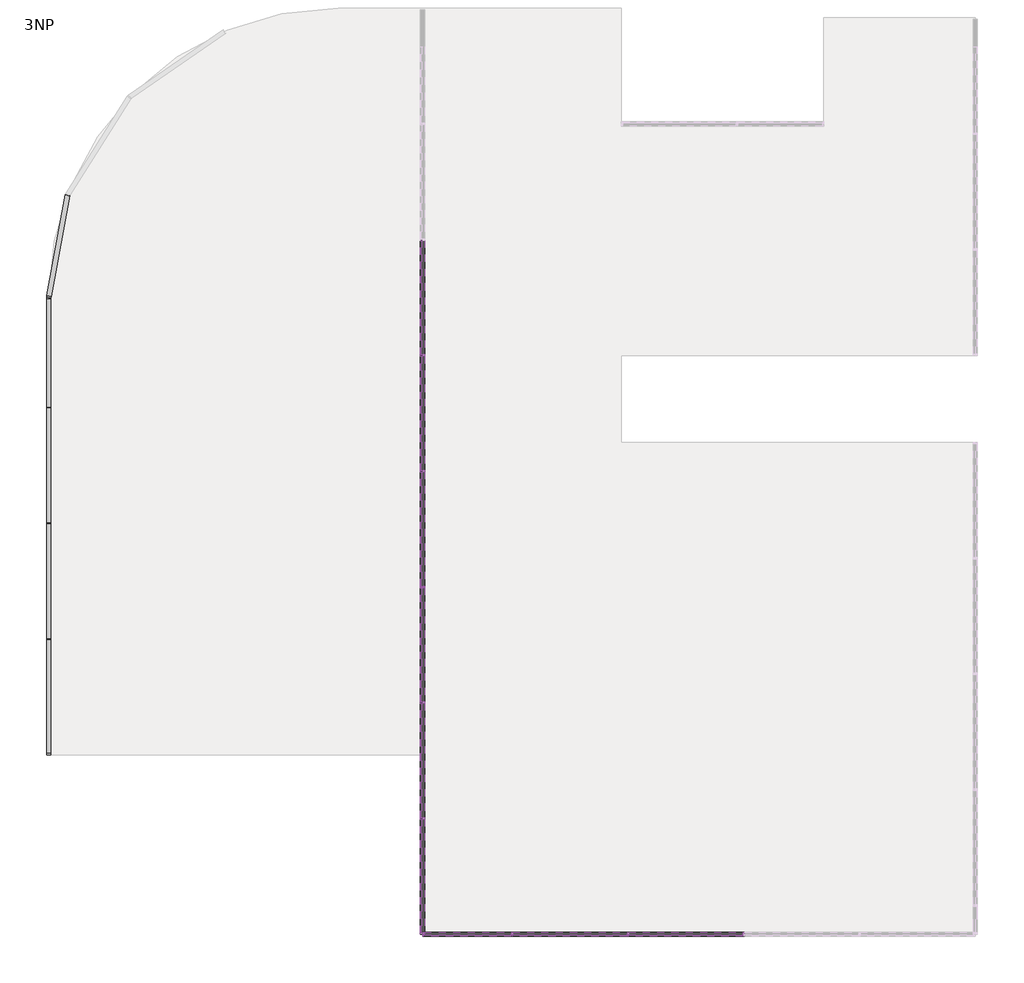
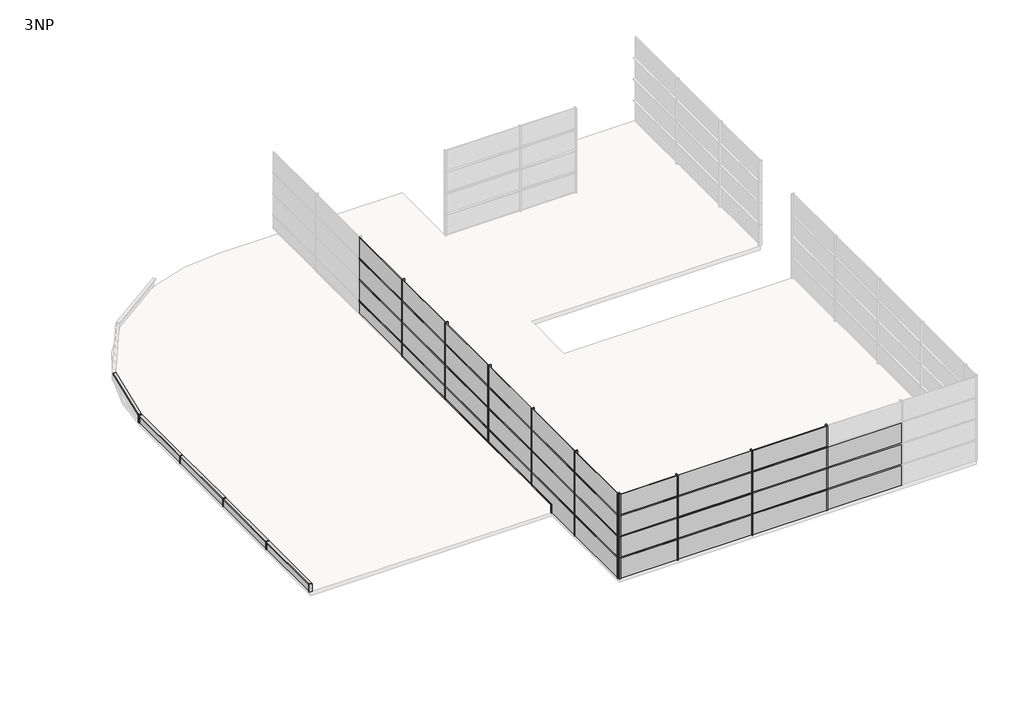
# One storey, part 1 of 4: 83 members, 43 plates.
"""IFC4 building model written with IfcOpenShell, lengths in millimetres."""

from ifc_helpers import new_model, si_unit, origin, place, context, project, spatial, transform, mapped, element, save
from components import rectangular_mullion_50_x_150mm_d99dc9be, rectangular_mullion_50_x_150mm_182bfbd5, rectangular_mullion_50_x_150mm_6588f46c, rectangular_mullion_50_x_150mm_a037c29c, rectangular_mullion_50_x_150mm_c2546fd4, rectangular_mullion_50_x_150mm_402ab136, rectangular_mullion_50_x_150mm_cd873b1a, rectangular_mullion_50_x_150mm_823f78f2, rectangular_mullion_50_x_150mm_af4f190b, rectangular_mullion_50_x_150mm_393abe4d, rectangular_mullion_50_x_150mm_6c212b22, rectangular_mullion_50_x_150mm_f682c31f, rectangular_mullion_50_x_150mm_a5a25251, rectangular_mullion_50_x_150mm_3d11f3b6, system_panel_glazed_8e9402eb, system_panel_glazed_89ac83a7, system_panel_glazed_2dc425e2, system_panel_glazed_457055d6, system_panel_glazed_6f3688e4, system_panel_glazed_d9b165dc, system_panel_glazed_d4f08671, system_panel_glazed_2e57b5d9

model = new_model("IFC4")

# Units and contexts
model_context = context("Model", 3, world=origin())
ifc_project = project(units=[si_unit("LENGTHUNIT", "METRE", prefix="MILLI")], contexts=[model_context])

# Site, building, storey
site = spatial("IfcSite", under=ifc_project)
building = spatial("IfcBuilding", under=site)
storey = spatial("IfcBuildingStorey", under=building, Name="3NP", Elevation=12000.0)

# Members
placement = place(None, origin())
rectangular_mullion_50_x_150mm_shape = rectangular_mullion_50_x_150mm_d99dc9be(model_context)
element("IfcMember", 1, ObjectType="Rectangular Mullion : 50 x 150mm", at=placement, inside=storey, context=model_context, shape_type="MappedRepresentation", body=[
    mapped(rectangular_mullion_50_x_150mm_shape, transform((5503.2660975, -23624.0160434, 13200.0), x_axis=(-1.0, 0.0, 0.0), y_axis=(0.0, -1.0, 0.0), z_axis=(0.0, 0.0, 1.0))),
])
element("IfcMember", 2, ObjectType="Rectangular Mullion : 50 x 150mm", at=placement, inside=storey, context=model_context, shape_type="MappedRepresentation", body=[
    mapped(rectangular_mullion_50_x_150mm_shape, transform((5503.2660975, -23624.0160434, 14400.0), x_axis=(-1.0, 0.0, 0.0), y_axis=(0.0, -1.0, 0.0), z_axis=(0.0, 0.0, 1.0))),
])
element("IfcMember", 3, ObjectType="Rectangular Mullion : 50 x 150mm", at=placement, inside=storey, context=model_context, shape_type="MappedRepresentation", body=[
    mapped(rectangular_mullion_50_x_150mm_shape, transform((5503.2660975, -23624.0160434, 15600.0), x_axis=(-1.0, 0.0, 0.0), y_axis=(0.0, -1.0, 0.0), z_axis=(0.0, 0.0, 1.0))),
])
element("IfcMember", 4, ObjectType="Rectangular Mullion : 50 x 150mm", at=placement, inside=storey, context=model_context, shape_type="MappedRepresentation", body=[
    mapped(rectangular_mullion_50_x_150mm_shape, transform((5503.2660975, -23624.0160434, 16800.0), x_axis=(-1.0, 0.0, 0.0), y_axis=(0.0, -1.0, 0.0), z_axis=(0.0, 0.0, 1.0))),
])
element("IfcMember", 5, ObjectType="Rectangular Mullion : 50 x 150mm", at=placement, inside=storey, context=model_context, shape_type="MappedRepresentation", body=[
    mapped(rectangular_mullion_50_x_150mm_shape, transform((1503.2660975, -23624.0160434, 13200.0), x_axis=(-1.0, 0.0, 0.0), y_axis=(0.0, -1.0, 0.0), z_axis=(0.0, 0.0, 1.0))),
])
element("IfcMember", 6, ObjectType="Rectangular Mullion : 50 x 150mm", at=placement, inside=storey, context=model_context, shape_type="MappedRepresentation", body=[
    mapped(rectangular_mullion_50_x_150mm_shape, transform((1503.2660975, -23624.0160434, 14400.0), x_axis=(-1.0, 0.0, 0.0), y_axis=(0.0, -1.0, 0.0), z_axis=(0.0, 0.0, 1.0))),
])
element("IfcMember", 7, ObjectType="Rectangular Mullion : 50 x 150mm", at=placement, inside=storey, context=model_context, shape_type="MappedRepresentation", body=[
    mapped(rectangular_mullion_50_x_150mm_shape, transform((1503.2660975, -23624.0160434, 15600.0), x_axis=(-1.0, 0.0, 0.0), y_axis=(0.0, -1.0, 0.0), z_axis=(0.0, 0.0, 1.0))),
])
element("IfcMember", 8, ObjectType="Rectangular Mullion : 50 x 150mm", at=placement, inside=storey, context=model_context, shape_type="MappedRepresentation", body=[
    mapped(rectangular_mullion_50_x_150mm_shape, transform((1503.2660975, -23624.0160434, 16800.0), x_axis=(-1.0, 0.0, 0.0), y_axis=(0.0, -1.0, 0.0), z_axis=(0.0, 0.0, 1.0))),
])
element("IfcMember", 9, ObjectType="Rectangular Mullion : 50 x 150mm", at=placement, inside=storey, context=model_context, shape_type="MappedRepresentation", body=[
    mapped(rectangular_mullion_50_x_150mm_shape, transform((-2496.7339025, -23624.0160434, 13200.0), x_axis=(-1.0, 0.0, 0.0), y_axis=(0.0, -1.0, 0.0), z_axis=(0.0, 0.0, 1.0))),
])
element("IfcMember", 10, ObjectType="Rectangular Mullion : 50 x 150mm", at=placement, inside=storey, context=model_context, shape_type="MappedRepresentation", body=[
    mapped(rectangular_mullion_50_x_150mm_shape, transform((-2496.7339025, -23624.0160434, 14400.0), x_axis=(-1.0, 0.0, 0.0), y_axis=(0.0, -1.0, 0.0), z_axis=(0.0, 0.0, 1.0))),
])
element("IfcMember", 11, ObjectType="Rectangular Mullion : 50 x 150mm", at=placement, inside=storey, context=model_context, shape_type="MappedRepresentation", body=[
    mapped(rectangular_mullion_50_x_150mm_shape, transform((-2496.7339025, -23624.0160434, 15600.0), x_axis=(-1.0, 0.0, 0.0), y_axis=(0.0, -1.0, 0.0), z_axis=(0.0, 0.0, 1.0))),
])
element("IfcMember", 12, ObjectType="Rectangular Mullion : 50 x 150mm", at=placement, inside=storey, context=model_context, shape_type="MappedRepresentation", body=[
    mapped(rectangular_mullion_50_x_150mm_shape, transform((-2496.7339025, -23624.0160434, 16800.0), x_axis=(-1.0, 0.0, 0.0), y_axis=(0.0, -1.0, 0.0), z_axis=(0.0, 0.0, 1.0))),
])
element("IfcMember", 13, ObjectType="Rectangular Mullion : 50 x 150mm", at=placement, inside=storey, context=model_context, shape_type="MappedRepresentation", body=[
    mapped(rectangular_mullion_50_x_150mm_shape, transform((-5587.173406, -19624.0160434, 13200.0), x_axis=(0.0, 1.0, 0.0), y_axis=(-1.0, 0.0, 0.0), z_axis=(0.0, 0.0, 1.0))),
])
element("IfcMember", 14, ObjectType="Rectangular Mullion : 50 x 150mm", at=placement, inside=storey, context=model_context, shape_type="MappedRepresentation", body=[
    mapped(rectangular_mullion_50_x_150mm_shape, transform((-5587.173406, -19624.0160434, 14400.0), x_axis=(0.0, 1.0, 0.0), y_axis=(-1.0, 0.0, 0.0), z_axis=(0.0, 0.0, 1.0))),
])
element("IfcMember", 15, ObjectType="Rectangular Mullion : 50 x 150mm", at=placement, inside=storey, context=model_context, shape_type="MappedRepresentation", body=[
    mapped(rectangular_mullion_50_x_150mm_shape, transform((-5587.173406, -19624.0160434, 15600.0), x_axis=(0.0, 1.0, 0.0), y_axis=(-1.0, 0.0, 0.0), z_axis=(0.0, 0.0, 1.0))),
])
element("IfcMember", 16, ObjectType="Rectangular Mullion : 50 x 150mm", at=placement, inside=storey, context=model_context, shape_type="MappedRepresentation", body=[
    mapped(rectangular_mullion_50_x_150mm_shape, transform((-5587.173406, -19624.0160434, 16800.0), x_axis=(0.0, 1.0, 0.0), y_axis=(-1.0, 0.0, 0.0), z_axis=(0.0, 0.0, 1.0))),
])
element("IfcMember", 17, ObjectType="Rectangular Mullion : 50 x 150mm", at=placement, inside=storey, context=model_context, shape_type="MappedRepresentation", body=[
    mapped(rectangular_mullion_50_x_150mm_shape, transform((-5587.173406, -15624.0160434, 14400.0), x_axis=(0.0, 1.0, 0.0), y_axis=(-1.0, 0.0, 0.0), z_axis=(0.0, 0.0, 1.0))),
])
element("IfcMember", 18, ObjectType="Rectangular Mullion : 50 x 150mm", at=placement, inside=storey, context=model_context, shape_type="MappedRepresentation", body=[
    mapped(rectangular_mullion_50_x_150mm_shape, transform((-5587.173406, -15624.0160434, 15600.0), x_axis=(0.0, 1.0, 0.0), y_axis=(-1.0, 0.0, 0.0), z_axis=(0.0, 0.0, 1.0))),
])
element("IfcMember", 19, ObjectType="Rectangular Mullion : 50 x 150mm", at=placement, inside=storey, context=model_context, shape_type="MappedRepresentation", body=[
    mapped(rectangular_mullion_50_x_150mm_shape, transform((-5587.173406, -15624.0160434, 16800.0), x_axis=(0.0, 1.0, 0.0), y_axis=(-1.0, 0.0, 0.0), z_axis=(0.0, 0.0, 1.0))),
])
element("IfcMember", 20, ObjectType="Rectangular Mullion : 50 x 150mm", at=placement, inside=storey, context=model_context, shape_type="MappedRepresentation", body=[
    mapped(rectangular_mullion_50_x_150mm_shape, transform((-5587.173406, -11624.0160434, 14400.0), x_axis=(0.0, 1.0, 0.0), y_axis=(-1.0, 0.0, 0.0), z_axis=(0.0, 0.0, 1.0))),
])
element("IfcMember", 21, ObjectType="Rectangular Mullion : 50 x 150mm", at=placement, inside=storey, context=model_context, shape_type="MappedRepresentation", body=[
    mapped(rectangular_mullion_50_x_150mm_shape, transform((-5587.173406, -11624.0160434, 15600.0), x_axis=(0.0, 1.0, 0.0), y_axis=(-1.0, 0.0, 0.0), z_axis=(0.0, 0.0, 1.0))),
])
element("IfcMember", 22, ObjectType="Rectangular Mullion : 50 x 150mm", at=placement, inside=storey, context=model_context, shape_type="MappedRepresentation", body=[
    mapped(rectangular_mullion_50_x_150mm_shape, transform((-5587.173406, -11624.0160434, 16800.0), x_axis=(0.0, 1.0, 0.0), y_axis=(-1.0, 0.0, 0.0), z_axis=(0.0, 0.0, 1.0))),
])
element("IfcMember", 23, ObjectType="Rectangular Mullion : 50 x 150mm", at=placement, inside=storey, context=model_context, shape_type="MappedRepresentation", body=[
    mapped(rectangular_mullion_50_x_150mm_shape, transform((-5587.173406, -7624.0160434, 14400.0), x_axis=(0.0, 1.0, 0.0), y_axis=(-1.0, 0.0, 0.0), z_axis=(0.0, 0.0, 1.0))),
])
element("IfcMember", 24, ObjectType="Rectangular Mullion : 50 x 150mm", at=placement, inside=storey, context=model_context, shape_type="MappedRepresentation", body=[
    mapped(rectangular_mullion_50_x_150mm_shape, transform((-5587.173406, -7624.0160434, 15600.0), x_axis=(0.0, 1.0, 0.0), y_axis=(-1.0, 0.0, 0.0), z_axis=(0.0, 0.0, 1.0))),
])
element("IfcMember", 25, ObjectType="Rectangular Mullion : 50 x 150mm", at=placement, inside=storey, context=model_context, shape_type="MappedRepresentation", body=[
    mapped(rectangular_mullion_50_x_150mm_shape, transform((-5587.173406, -7624.0160434, 16800.0), x_axis=(0.0, 1.0, 0.0), y_axis=(-1.0, 0.0, 0.0), z_axis=(0.0, 0.0, 1.0))),
])
element("IfcMember", 26, ObjectType="Rectangular Mullion : 50 x 150mm", at=placement, inside=storey, context=model_context, shape_type="MappedRepresentation", body=[
    mapped(rectangular_mullion_50_x_150mm_shape, transform((-5587.173406, -3624.0160434, 14400.0), x_axis=(0.0, 1.0, 0.0), y_axis=(-1.0, 0.0, 0.0), z_axis=(0.0, 0.0, 1.0))),
])
element("IfcMember", 27, ObjectType="Rectangular Mullion : 50 x 150mm", at=placement, inside=storey, context=model_context, shape_type="MappedRepresentation", body=[
    mapped(rectangular_mullion_50_x_150mm_shape, transform((-5587.173406, -3624.0160434, 15600.0), x_axis=(0.0, 1.0, 0.0), y_axis=(-1.0, 0.0, 0.0), z_axis=(0.0, 0.0, 1.0))),
])
element("IfcMember", 28, ObjectType="Rectangular Mullion : 50 x 150mm", at=placement, inside=storey, context=model_context, shape_type="MappedRepresentation", body=[
    mapped(rectangular_mullion_50_x_150mm_shape, transform((-5587.173406, -3624.0160434, 16800.0), x_axis=(0.0, 1.0, 0.0), y_axis=(-1.0, 0.0, 0.0), z_axis=(0.0, 0.0, 1.0))),
])
rectangular_mullion_50_x_150mm_2_shape = rectangular_mullion_50_x_150mm_182bfbd5(model_context)
element("IfcMember", 29, ObjectType="Rectangular Mullion : 50 x 150mm", at=placement, inside=storey, context=model_context, shape_type="MappedRepresentation", body=[
    mapped(rectangular_mullion_50_x_150mm_2_shape, transform((-5587.173406, -11649.0160434, 12448.4924443), x_axis=(0.0, 0.0, -1.0), y_axis=(-1.0, 0.0, 0.0), z_axis=(0.0, 1.0, 0.0))),
])
element("IfcMember", 30, ObjectType="Rectangular Mullion : 50 x 150mm", at=placement, inside=storey, context=model_context, shape_type="MappedRepresentation", body=[
    mapped(rectangular_mullion_50_x_150mm_2_shape, transform((-5587.173406, -7649.0160434, 12448.4924443), x_axis=(0.0, 0.0, -1.0), y_axis=(-1.0, 0.0, 0.0), z_axis=(0.0, 1.0, 0.0))),
])
element("IfcMember", 31, ObjectType="Rectangular Mullion : 50 x 150mm", at=placement, inside=storey, context=model_context, shape_type="MappedRepresentation", body=[
    mapped(rectangular_mullion_50_x_150mm_2_shape, transform((-5587.173406, -3649.0160434, 12448.4924443), x_axis=(0.0, 0.0, -1.0), y_axis=(-1.0, 0.0, 0.0), z_axis=(0.0, 1.0, 0.0))),
])
rectangular_mullion_50_x_150mm_3_shape = rectangular_mullion_50_x_150mm_6588f46c(model_context)
element("IfcMember", 32, ObjectType="Rectangular Mullion : 50 x 150mm", at=placement, inside=storey, context=model_context, shape_type="MappedRepresentation", body=[
    mapped(rectangular_mullion_50_x_150mm_3_shape, transform((-5587.173406, -23624.0160434, 13200.0), x_axis=(-1.0, 0.0, 0.0), y_axis=(0.0, -1.0, 0.0), z_axis=(0.0, 0.0, 1.0))),
])
element("IfcMember", 33, ObjectType="Rectangular Mullion : 50 x 150mm", at=placement, inside=storey, context=model_context, shape_type="MappedRepresentation", body=[
    mapped(rectangular_mullion_50_x_150mm_3_shape, transform((-5587.173406, -23624.0160434, 14400.0), x_axis=(-1.0, 0.0, 0.0), y_axis=(0.0, -1.0, 0.0), z_axis=(0.0, 0.0, 1.0))),
])
element("IfcMember", 34, ObjectType="Rectangular Mullion : 50 x 150mm", at=placement, inside=storey, context=model_context, shape_type="MappedRepresentation", body=[
    mapped(rectangular_mullion_50_x_150mm_3_shape, transform((-5587.173406, -23624.0160434, 15600.0), x_axis=(-1.0, 0.0, 0.0), y_axis=(0.0, -1.0, 0.0), z_axis=(0.0, 0.0, 1.0))),
])
element("IfcMember", 35, ObjectType="Rectangular Mullion : 50 x 150mm", at=placement, inside=storey, context=model_context, shape_type="MappedRepresentation", body=[
    mapped(rectangular_mullion_50_x_150mm_3_shape, transform((-5587.173406, -23624.0160434, 16800.0), x_axis=(-1.0, 0.0, 0.0), y_axis=(0.0, -1.0, 0.0), z_axis=(0.0, 0.0, 1.0))),
])
element("IfcMember", 36, ObjectType="Rectangular Mullion : 50 x 150mm", at=placement, inside=storey, context=model_context, shape_type="MappedRepresentation", body=[
    mapped(rectangular_mullion_50_x_150mm_2_shape, transform((-18496.7339025, -9398.5291324, 12448.4924443), x_axis=(0.0, 0.0, 1.0), y_axis=(-1.0, 0.0, 0.0), z_axis=(0.0, -1.0, 0.0))),
])
element("IfcMember", 37, ObjectType="Rectangular Mullion : 50 x 150mm", at=placement, inside=storey, context=model_context, shape_type="MappedRepresentation", body=[
    mapped(rectangular_mullion_50_x_150mm_2_shape, transform((-18496.7339025, -13398.5291324, 12448.4924443), x_axis=(0.0, 0.0, 1.0), y_axis=(-1.0, 0.0, 0.0), z_axis=(0.0, -1.0, 0.0))),
])
rectangular_mullion_50_x_150mm_4_shape = rectangular_mullion_50_x_150mm_a037c29c(model_context)
element("IfcMember", 38, ObjectType="Rectangular Mullion : 50 x 150mm", at=placement, inside=storey, context=model_context, shape_type="MappedRepresentation", body=[
    mapped(rectangular_mullion_50_x_150mm_4_shape, transform((5478.2660975, -23624.0160434, 13200.0), x_axis=(0.0, 0.0, 1.0), y_axis=(0.0, -1.0, 0.0), z_axis=(1.0, 0.0, 0.0))),
])
element("IfcMember", 39, ObjectType="Rectangular Mullion : 50 x 150mm", at=placement, inside=storey, context=model_context, shape_type="MappedRepresentation", body=[
    mapped(rectangular_mullion_50_x_150mm_4_shape, transform((1478.2660975, -23624.0160434, 13200.0), x_axis=(0.0, 0.0, 1.0), y_axis=(0.0, -1.0, 0.0), z_axis=(1.0, 0.0, 0.0))),
])
element("IfcMember", 40, ObjectType="Rectangular Mullion : 50 x 150mm", at=placement, inside=storey, context=model_context, shape_type="MappedRepresentation", body=[
    mapped(rectangular_mullion_50_x_150mm_4_shape, transform((5478.2660975, -23624.0160434, 14400.0), x_axis=(0.0, 0.0, 1.0), y_axis=(0.0, -1.0, 0.0), z_axis=(1.0, 0.0, 0.0))),
])
element("IfcMember", 41, ObjectType="Rectangular Mullion : 50 x 150mm", at=placement, inside=storey, context=model_context, shape_type="MappedRepresentation", body=[
    mapped(rectangular_mullion_50_x_150mm_4_shape, transform((1478.2660975, -23624.0160434, 14400.0), x_axis=(0.0, 0.0, 1.0), y_axis=(0.0, -1.0, 0.0), z_axis=(1.0, 0.0, 0.0))),
])
element("IfcMember", 42, ObjectType="Rectangular Mullion : 50 x 150mm", at=placement, inside=storey, context=model_context, shape_type="MappedRepresentation", body=[
    mapped(rectangular_mullion_50_x_150mm_4_shape, transform((5478.2660975, -23624.0160434, 15600.0), x_axis=(0.0, 0.0, 1.0), y_axis=(0.0, -1.0, 0.0), z_axis=(1.0, 0.0, 0.0))),
])
element("IfcMember", 43, ObjectType="Rectangular Mullion : 50 x 150mm", at=placement, inside=storey, context=model_context, shape_type="MappedRepresentation", body=[
    mapped(rectangular_mullion_50_x_150mm_4_shape, transform((1478.2660975, -23624.0160434, 15600.0), x_axis=(0.0, 0.0, 1.0), y_axis=(0.0, -1.0, 0.0), z_axis=(1.0, 0.0, 0.0))),
])
element("IfcMember", 44, ObjectType="Rectangular Mullion : 50 x 150mm", at=placement, inside=storey, context=model_context, shape_type="MappedRepresentation", body=[
    mapped(rectangular_mullion_50_x_150mm_4_shape, transform((-5587.173406, -7599.0160434, 15600.0), x_axis=(0.0, 0.0, 1.0), y_axis=(-1.0, 0.0, 0.0), z_axis=(0.0, -1.0, 0.0))),
])
element("IfcMember", 45, ObjectType="Rectangular Mullion : 50 x 150mm", at=placement, inside=storey, context=model_context, shape_type="MappedRepresentation", body=[
    mapped(rectangular_mullion_50_x_150mm_4_shape, transform((-5587.173406, -3599.0160434, 15600.0), x_axis=(0.0, 0.0, 1.0), y_axis=(-1.0, 0.0, 0.0), z_axis=(0.0, -1.0, 0.0))),
])
element("IfcMember", 46, ObjectType="Rectangular Mullion : 50 x 150mm", at=placement, inside=storey, context=model_context, shape_type="MappedRepresentation", body=[
    mapped(rectangular_mullion_50_x_150mm_4_shape, transform((-5587.173406, -15599.0160434, 14400.0), x_axis=(0.0, 0.0, 1.0), y_axis=(-1.0, 0.0, 0.0), z_axis=(0.0, -1.0, 0.0))),
])
element("IfcMember", 47, ObjectType="Rectangular Mullion : 50 x 150mm", at=placement, inside=storey, context=model_context, shape_type="MappedRepresentation", body=[
    mapped(rectangular_mullion_50_x_150mm_4_shape, transform((-5587.173406, -11599.0160434, 14400.0), x_axis=(0.0, 0.0, 1.0), y_axis=(-1.0, 0.0, 0.0), z_axis=(0.0, -1.0, 0.0))),
])
element("IfcMember", 48, ObjectType="Rectangular Mullion : 50 x 150mm", at=placement, inside=storey, context=model_context, shape_type="MappedRepresentation", body=[
    mapped(rectangular_mullion_50_x_150mm_4_shape, transform((-5587.173406, -7599.0160434, 14400.0), x_axis=(0.0, 0.0, 1.0), y_axis=(-1.0, 0.0, 0.0), z_axis=(0.0, -1.0, 0.0))),
])
element("IfcMember", 49, ObjectType="Rectangular Mullion : 50 x 150mm", at=placement, inside=storey, context=model_context, shape_type="MappedRepresentation", body=[
    mapped(rectangular_mullion_50_x_150mm_4_shape, transform((-5587.173406, -3599.0160434, 14400.0), x_axis=(0.0, 0.0, 1.0), y_axis=(-1.0, 0.0, 0.0), z_axis=(0.0, -1.0, 0.0))),
])
element("IfcMember", 50, ObjectType="Rectangular Mullion : 50 x 150mm", at=placement, inside=storey, context=model_context, shape_type="MappedRepresentation", body=[
    mapped(rectangular_mullion_50_x_150mm_4_shape, transform((-5587.173406, -19599.0160434, 15600.0), x_axis=(0.0, 0.0, 1.0), y_axis=(-1.0, 0.0, 0.0), z_axis=(0.0, -1.0, 0.0))),
])
element("IfcMember", 51, ObjectType="Rectangular Mullion : 50 x 150mm", at=placement, inside=storey, context=model_context, shape_type="MappedRepresentation", body=[
    mapped(rectangular_mullion_50_x_150mm_4_shape, transform((-5587.173406, -15599.0160434, 15600.0), x_axis=(0.0, 0.0, 1.0), y_axis=(-1.0, 0.0, 0.0), z_axis=(0.0, -1.0, 0.0))),
])
element("IfcMember", 52, ObjectType="Rectangular Mullion : 50 x 150mm", at=placement, inside=storey, context=model_context, shape_type="MappedRepresentation", body=[
    mapped(rectangular_mullion_50_x_150mm_4_shape, transform((-5587.173406, -11599.0160434, 15600.0), x_axis=(0.0, 0.0, 1.0), y_axis=(-1.0, 0.0, 0.0), z_axis=(0.0, -1.0, 0.0))),
])
element("IfcMember", 53, ObjectType="Rectangular Mullion : 50 x 150mm", at=placement, inside=storey, context=model_context, shape_type="MappedRepresentation", body=[
    mapped(rectangular_mullion_50_x_150mm_4_shape, transform((-5587.173406, -19599.0160434, 13200.0), x_axis=(0.0, 0.0, 1.0), y_axis=(-1.0, 0.0, 0.0), z_axis=(0.0, -1.0, 0.0))),
])
element("IfcMember", 54, ObjectType="Rectangular Mullion : 50 x 150mm", at=placement, inside=storey, context=model_context, shape_type="MappedRepresentation", body=[
    mapped(rectangular_mullion_50_x_150mm_4_shape, transform((-5587.173406, -15599.0160434, 13200.0), x_axis=(0.0, 0.0, 1.0), y_axis=(-1.0, 0.0, 0.0), z_axis=(0.0, -1.0, 0.0))),
])
element("IfcMember", 55, ObjectType="Rectangular Mullion : 50 x 150mm", at=placement, inside=storey, context=model_context, shape_type="MappedRepresentation", body=[
    mapped(rectangular_mullion_50_x_150mm_4_shape, transform((-5587.173406, -11599.0160434, 13200.0), x_axis=(0.0, 0.0, 1.0), y_axis=(-1.0, 0.0, 0.0), z_axis=(0.0, -1.0, 0.0))),
])
element("IfcMember", 56, ObjectType="Rectangular Mullion : 50 x 150mm", at=placement, inside=storey, context=model_context, shape_type="MappedRepresentation", body=[
    mapped(rectangular_mullion_50_x_150mm_4_shape, transform((-5587.173406, -7599.0160434, 13200.0), x_axis=(0.0, 0.0, 1.0), y_axis=(-1.0, 0.0, 0.0), z_axis=(0.0, -1.0, 0.0))),
])
element("IfcMember", 57, ObjectType="Rectangular Mullion : 50 x 150mm", at=placement, inside=storey, context=model_context, shape_type="MappedRepresentation", body=[
    mapped(rectangular_mullion_50_x_150mm_4_shape, transform((-5587.173406, -3599.0160434, 13200.0), x_axis=(0.0, 0.0, 1.0), y_axis=(-1.0, 0.0, 0.0), z_axis=(0.0, -1.0, 0.0))),
])
element("IfcMember", 58, ObjectType="Rectangular Mullion : 50 x 150mm", at=placement, inside=storey, context=model_context, shape_type="MappedRepresentation", body=[
    mapped(rectangular_mullion_50_x_150mm_4_shape, transform((-5587.173406, -19599.0160434, 14400.0), x_axis=(0.0, 0.0, 1.0), y_axis=(-1.0, 0.0, 0.0), z_axis=(0.0, -1.0, 0.0))),
])
rectangular_mullion_50_x_150mm_5_shape = rectangular_mullion_50_x_150mm_c2546fd4(model_context)
element("IfcMember", 59, ObjectType="Rectangular Mullion : 50 x 150mm", at=placement, inside=storey, context=model_context, shape_type="MappedRepresentation", body=[
    mapped(rectangular_mullion_50_x_150mm_5_shape, transform((-5587.173406, -23574.0160434, 15600.0), x_axis=(0.0, 0.0, 1.0), y_axis=(-1.0, 0.0, 0.0), z_axis=(0.0, -1.0, 0.0))),
])
element("IfcMember", 60, ObjectType="Rectangular Mullion : 50 x 150mm", at=placement, inside=storey, context=model_context, shape_type="MappedRepresentation", body=[
    mapped(rectangular_mullion_50_x_150mm_5_shape, transform((-5587.173406, -23574.0160434, 13200.0), x_axis=(0.0, 0.0, 1.0), y_axis=(-1.0, 0.0, 0.0), z_axis=(0.0, -1.0, 0.0))),
])
element("IfcMember", 61, ObjectType="Rectangular Mullion : 50 x 150mm", at=placement, inside=storey, context=model_context, shape_type="MappedRepresentation", body=[
    mapped(rectangular_mullion_50_x_150mm_5_shape, transform((-5587.173406, -23574.0160434, 14400.0), x_axis=(0.0, 0.0, 1.0), y_axis=(-1.0, 0.0, 0.0), z_axis=(0.0, -1.0, 0.0))),
])
rectangular_mullion_50_x_150mm_6_shape = rectangular_mullion_50_x_150mm_402ab136(model_context)
element("IfcMember", 62, ObjectType="Rectangular Mullion : 50 x 150mm", at=placement, inside=storey, context=model_context, shape_type="MappedRepresentation", body=[
    mapped(rectangular_mullion_50_x_150mm_6_shape, transform((-18496.7339025, -17373.5291324, 12448.4924443), x_axis=(0.0, 0.0, 1.0), y_axis=(-1.0, 0.0, 0.0), z_axis=(0.0, -1.0, 0.0))),
])
element("IfcMember", 63, ObjectType="Rectangular Mullion : 50 x 150mm", at=placement, inside=storey, context=model_context, shape_type="MappedRepresentation", body=[
    mapped(rectangular_mullion_50_x_150mm_3_shape, transform((-5587.173406, -23624.0160434, 12000.0), x_axis=(0.0, -1.0, 0.0), y_axis=(-1.0, 0.0, 0.0), z_axis=(0.0, 0.0, -1.0))),
])
element("IfcMember", 64, ObjectType="Rectangular Mullion : 50 x 150mm", at=placement, inside=storey, context=model_context, shape_type="MappedRepresentation", body=[
    mapped(rectangular_mullion_50_x_150mm_3_shape, transform((-5587.173406, -23624.0160434, 13200.0), x_axis=(0.0, -1.0, 0.0), y_axis=(-1.0, 0.0, 0.0), z_axis=(0.0, 0.0, -1.0))),
])
element("IfcMember", 65, ObjectType="Rectangular Mullion : 50 x 150mm", at=placement, inside=storey, context=model_context, shape_type="MappedRepresentation", body=[
    mapped(rectangular_mullion_50_x_150mm_3_shape, transform((-5587.173406, -23624.0160434, 14400.0), x_axis=(0.0, -1.0, 0.0), y_axis=(-1.0, 0.0, 0.0), z_axis=(0.0, 0.0, -1.0))),
])
element("IfcMember", 66, ObjectType="Rectangular Mullion : 50 x 150mm", at=placement, inside=storey, context=model_context, shape_type="MappedRepresentation", body=[
    mapped(rectangular_mullion_50_x_150mm_3_shape, transform((-5587.173406, -23624.0160434, 15600.0), x_axis=(0.0, -1.0, 0.0), y_axis=(-1.0, 0.0, 0.0), z_axis=(0.0, 0.0, -1.0))),
])
rectangular_mullion_50_x_150mm_7_shape = rectangular_mullion_50_x_150mm_cd873b1a(model_context)
element("IfcMember", 67, ObjectType="Rectangular Mullion : 50 x 150mm", at=placement, inside=storey, context=model_context, shape_type="MappedRepresentation", body=[
    mapped(rectangular_mullion_50_x_150mm_7_shape, transform((-2521.7339025, -23624.0160434, 13200.0), x_axis=(0.0, 0.0, 1.0), y_axis=(0.0, -1.0, 0.0), z_axis=(1.0, 0.0, 0.0))),
])
element("IfcMember", 68, ObjectType="Rectangular Mullion : 50 x 150mm", at=placement, inside=storey, context=model_context, shape_type="MappedRepresentation", body=[
    mapped(rectangular_mullion_50_x_150mm_7_shape, transform((-2521.7339025, -23624.0160434, 14400.0), x_axis=(0.0, 0.0, 1.0), y_axis=(0.0, -1.0, 0.0), z_axis=(1.0, 0.0, 0.0))),
])
element("IfcMember", 69, ObjectType="Rectangular Mullion : 50 x 150mm", at=placement, inside=storey, context=model_context, shape_type="MappedRepresentation", body=[
    mapped(rectangular_mullion_50_x_150mm_7_shape, transform((-2521.7339025, -23624.0160434, 15600.0), x_axis=(0.0, 0.0, 1.0), y_axis=(0.0, -1.0, 0.0), z_axis=(1.0, 0.0, 0.0))),
])
rectangular_mullion_50_x_150mm_8_shape = rectangular_mullion_50_x_150mm_823f78f2(model_context)
element("IfcMember", 70, ObjectType="Rectangular Mullion : 50 x 150mm", at=placement, inside=storey, context=model_context, shape_type="MappedRepresentation", body=[
    mapped(rectangular_mullion_50_x_150mm_8_shape, transform((-5587.173406, -15624.0160434, 13200.0), x_axis=(0.0, 1.0, 0.0), y_axis=(-1.0, 0.0, 0.0), z_axis=(0.0, 0.0, 1.0))),
])
element("IfcMember", 71, ObjectType="Rectangular Mullion : 50 x 150mm", at=placement, inside=storey, context=model_context, shape_type="MappedRepresentation", body=[
    mapped(rectangular_mullion_50_x_150mm_8_shape, transform((-5587.173406, -11624.0160434, 13200.0), x_axis=(0.0, 1.0, 0.0), y_axis=(-1.0, 0.0, 0.0), z_axis=(0.0, 0.0, 1.0))),
])
element("IfcMember", 72, ObjectType="Rectangular Mullion : 50 x 150mm", at=placement, inside=storey, context=model_context, shape_type="MappedRepresentation", body=[
    mapped(rectangular_mullion_50_x_150mm_8_shape, transform((-5587.173406, -7624.0160434, 13200.0), x_axis=(0.0, 1.0, 0.0), y_axis=(-1.0, 0.0, 0.0), z_axis=(0.0, 0.0, 1.0))),
])
element("IfcMember", 73, ObjectType="Rectangular Mullion : 50 x 150mm", at=placement, inside=storey, context=model_context, shape_type="MappedRepresentation", body=[
    mapped(rectangular_mullion_50_x_150mm_8_shape, transform((-5587.173406, -3624.0160434, 13200.0), x_axis=(0.0, 1.0, 0.0), y_axis=(-1.0, 0.0, 0.0), z_axis=(0.0, 0.0, 1.0))),
])
rectangular_mullion_50_x_150mm_9_shape = rectangular_mullion_50_x_150mm_af4f190b(model_context)
element("IfcMember", 74, ObjectType="Rectangular Mullion : 50 x 150mm", at=placement, inside=storey, context=model_context, shape_type="MappedRepresentation", body=[
    mapped(rectangular_mullion_50_x_150mm_9_shape, transform((-5587.173406, -17423.5291324, 12498.4924443), x_axis=(0.0, 1.0, 0.0), y_axis=(-1.0, 0.0, 0.0), z_axis=(0.0, 0.0, 1.0))),
])
rectangular_mullion_50_x_150mm_10_shape = rectangular_mullion_50_x_150mm_393abe4d(model_context)
element("IfcMember", 75, ObjectType="Rectangular Mullion : 50 x 150mm", at=placement, inside=storey, context=model_context, shape_type="MappedRepresentation", body=[
    mapped(rectangular_mullion_50_x_150mm_10_shape, transform((-5587.173406, -15649.0160434, 12448.4924443), x_axis=(0.0, 0.0, -1.0), y_axis=(-1.0, 0.0, 0.0), z_axis=(0.0, 1.0, 0.0))),
])
rectangular_mullion_50_x_150mm_11_shape = rectangular_mullion_50_x_150mm_6c212b22(model_context)
element("IfcMember", 76, ObjectType="Rectangular Mullion : 50 x 150mm", at=placement, inside=storey, context=model_context, shape_type="MappedRepresentation", body=[
    mapped(rectangular_mullion_50_x_150mm_11_shape, transform((-18496.7339025, -1624.0160434, 12448.4924443), x_axis=(0.0, 1.0, 0.0), y_axis=(-1.0, 0.0, 0.0), z_axis=(0.0, 0.0, 1.0))),
])
element("IfcMember", 77, ObjectType="Rectangular Mullion : 50 x 150mm", at=placement, inside=storey, context=model_context, shape_type="MappedRepresentation", body=[
    mapped(rectangular_mullion_50_x_150mm_11_shape, transform((-18496.7339025, -1624.0160434, 12000.0), x_axis=(-0.18033241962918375, -0.9836057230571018, 0.0), y_axis=(-0.9836057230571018, 0.18033241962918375, 0.0), z_axis=(0.0, 0.0, -1.0))),
])
element("IfcMember", 78, ObjectType="Rectangular Mullion : 50 x 150mm", at=placement, inside=storey, context=model_context, shape_type="MappedRepresentation", body=[
    mapped(rectangular_mullion_50_x_150mm_11_shape, transform((-18496.7339025, -17423.5291324, 12000.0), x_axis=(0.0, -1.0, 0.0), y_axis=(-1.0, 0.0, 0.0), z_axis=(0.0, 0.0, -1.0))),
])
rectangular_mullion_50_x_150mm_12_shape = rectangular_mullion_50_x_150mm_f682c31f(model_context)
element("IfcMember", 79, ObjectType="Rectangular Mullion : 50 x 150mm", at=placement, inside=storey, context=model_context, shape_type="MappedRepresentation", body=[
    mapped(rectangular_mullion_50_x_150mm_12_shape, transform((-18487.7172815, -1574.8357573, 12448.4924443), x_axis=(0.0, 0.0, 1.0), y_axis=(-0.9836057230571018, 0.18033241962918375, 0.0), z_axis=(-0.18033241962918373, -0.9836057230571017, 0.0))),
])
rectangular_mullion_50_x_150mm_13_shape = rectangular_mullion_50_x_150mm_a5a25251(model_context)
element("IfcMember", 80, ObjectType="Rectangular Mullion : 50 x 150mm", at=placement, inside=storey, context=model_context, shape_type="MappedRepresentation", body=[
    mapped(rectangular_mullion_50_x_150mm_13_shape, transform((-18496.7339025, -5398.5291324, 12448.4924443), x_axis=(0.0, 0.0, 1.0), y_axis=(-1.0, 0.0, 0.0), z_axis=(0.0, -1.0, 0.0))),
])
rectangular_mullion_50_x_150mm_14_shape = rectangular_mullion_50_x_150mm_3d11f3b6(model_context)
element("IfcMember", 81, ObjectType="Rectangular Mullion : 50 x 150mm", at=placement, inside=storey, context=model_context, shape_type="MappedRepresentation", body=[
    mapped(rectangular_mullion_50_x_150mm_14_shape, transform((-18496.7339025, -13423.5291324, 12448.4924443), x_axis=(0.0, 1.0, 0.0), y_axis=(-1.0, 0.0, 0.0), z_axis=(0.0, 0.0, 1.0))),
])
element("IfcMember", 82, ObjectType="Rectangular Mullion : 50 x 150mm", at=placement, inside=storey, context=model_context, shape_type="MappedRepresentation", body=[
    mapped(rectangular_mullion_50_x_150mm_14_shape, transform((-18496.7339025, -9423.5291324, 12448.4924443), x_axis=(0.0, 1.0, 0.0), y_axis=(-1.0, 0.0, 0.0), z_axis=(0.0, 0.0, 1.0))),
])
element("IfcMember", 83, ObjectType="Rectangular Mullion : 50 x 150mm", at=placement, inside=storey, context=model_context, shape_type="MappedRepresentation", body=[
    mapped(rectangular_mullion_50_x_150mm_14_shape, transform((-18496.7339025, -5423.5291324, 12448.4924443), x_axis=(0.0, 1.0, 0.0), y_axis=(-1.0, 0.0, 0.0), z_axis=(0.0, 0.0, 1.0))),
])

# Plates
system_panel_glazed_shape = system_panel_glazed_8e9402eb(model_context)
element("IfcPlate", 84, ObjectType="System Panel : Glazed", at=placement, inside=storey, context=model_context, shape_type="MappedRepresentation", body=[
    mapped(system_panel_glazed_shape, transform((-5587.173406, -21611.5160434, 12025.0), x_axis=(0.0, 1.0, 0.0), y_axis=(-1.0, 0.0, 0.0), z_axis=(0.0, 0.0, 1.0))),
])
element("IfcPlate", 85, ObjectType="System Panel : Glazed", at=placement, inside=storey, context=model_context, shape_type="MappedRepresentation", body=[
    mapped(system_panel_glazed_shape, transform((-5587.173406, -21611.5160434, 13225.0), x_axis=(0.0, 1.0, 0.0), y_axis=(-1.0, 0.0, 0.0), z_axis=(0.0, 0.0, 1.0))),
])
element("IfcPlate", 86, ObjectType="System Panel : Glazed", at=placement, inside=storey, context=model_context, shape_type="MappedRepresentation", body=[
    mapped(system_panel_glazed_shape, transform((-5587.173406, -21611.5160434, 14425.0), x_axis=(0.0, 1.0, 0.0), y_axis=(-1.0, 0.0, 0.0), z_axis=(0.0, 0.0, 1.0))),
])
element("IfcPlate", 87, ObjectType="System Panel : Glazed", at=placement, inside=storey, context=model_context, shape_type="MappedRepresentation", body=[
    mapped(system_panel_glazed_shape, transform((-5587.173406, -21611.5160434, 15625.0), x_axis=(0.0, 1.0, 0.0), y_axis=(-1.0, 0.0, 0.0), z_axis=(0.0, 0.0, 1.0))),
])
system_panel_glazed_2_shape = system_panel_glazed_89ac83a7(model_context)
element("IfcPlate", 88, ObjectType="System Panel : Glazed", at=placement, inside=storey, context=model_context, shape_type="MappedRepresentation", body=[
    mapped(system_panel_glazed_2_shape, transform((-5587.173406, -17624.0160434, 13225.0), x_axis=(0.0, 1.0, 0.0), y_axis=(-1.0, 0.0, 0.0), z_axis=(0.0, 0.0, 1.0))),
])
element("IfcPlate", 89, ObjectType="System Panel : Glazed", at=placement, inside=storey, context=model_context, shape_type="MappedRepresentation", body=[
    mapped(system_panel_glazed_2_shape, transform((-5587.173406, -13624.0160434, 13225.0), x_axis=(0.0, 1.0, 0.0), y_axis=(-1.0, 0.0, 0.0), z_axis=(0.0, 0.0, 1.0))),
])
element("IfcPlate", 90, ObjectType="System Panel : Glazed", at=placement, inside=storey, context=model_context, shape_type="MappedRepresentation", body=[
    mapped(system_panel_glazed_2_shape, transform((-5587.173406, -9624.0160434, 13225.0), x_axis=(0.0, 1.0, 0.0), y_axis=(-1.0, 0.0, 0.0), z_axis=(0.0, 0.0, 1.0))),
])
element("IfcPlate", 91, ObjectType="System Panel : Glazed", at=placement, inside=storey, context=model_context, shape_type="MappedRepresentation", body=[
    mapped(system_panel_glazed_2_shape, transform((-5587.173406, -5624.0160434, 13225.0), x_axis=(0.0, 1.0, 0.0), y_axis=(-1.0, 0.0, 0.0), z_axis=(0.0, 0.0, 1.0))),
])
element("IfcPlate", 92, ObjectType="System Panel : Glazed", at=placement, inside=storey, context=model_context, shape_type="MappedRepresentation", body=[
    mapped(system_panel_glazed_2_shape, transform((-5587.173406, -1624.0160434, 13225.0), x_axis=(0.0, 1.0, 0.0), y_axis=(-1.0, 0.0, 0.0), z_axis=(0.0, 0.0, 1.0))),
])
element("IfcPlate", 93, ObjectType="System Panel : Glazed", at=placement, inside=storey, context=model_context, shape_type="MappedRepresentation", body=[
    mapped(system_panel_glazed_2_shape, transform((-5587.173406, -17624.0160434, 14425.0), x_axis=(0.0, 1.0, 0.0), y_axis=(-1.0, 0.0, 0.0), z_axis=(0.0, 0.0, 1.0))),
])
element("IfcPlate", 94, ObjectType="System Panel : Glazed", at=placement, inside=storey, context=model_context, shape_type="MappedRepresentation", body=[
    mapped(system_panel_glazed_2_shape, transform((-5587.173406, -13624.0160434, 14425.0), x_axis=(0.0, 1.0, 0.0), y_axis=(-1.0, 0.0, 0.0), z_axis=(0.0, 0.0, 1.0))),
])
element("IfcPlate", 95, ObjectType="System Panel : Glazed", at=placement, inside=storey, context=model_context, shape_type="MappedRepresentation", body=[
    mapped(system_panel_glazed_2_shape, transform((-5587.173406, -9624.0160434, 14425.0), x_axis=(0.0, 1.0, 0.0), y_axis=(-1.0, 0.0, 0.0), z_axis=(0.0, 0.0, 1.0))),
])
element("IfcPlate", 96, ObjectType="System Panel : Glazed", at=placement, inside=storey, context=model_context, shape_type="MappedRepresentation", body=[
    mapped(system_panel_glazed_2_shape, transform((-5587.173406, -5624.0160434, 14425.0), x_axis=(0.0, 1.0, 0.0), y_axis=(-1.0, 0.0, 0.0), z_axis=(0.0, 0.0, 1.0))),
])
element("IfcPlate", 97, ObjectType="System Panel : Glazed", at=placement, inside=storey, context=model_context, shape_type="MappedRepresentation", body=[
    mapped(system_panel_glazed_2_shape, transform((-5587.173406, -1624.0160434, 14425.0), x_axis=(0.0, 1.0, 0.0), y_axis=(-1.0, 0.0, 0.0), z_axis=(0.0, 0.0, 1.0))),
])
element("IfcPlate", 98, ObjectType="System Panel : Glazed", at=placement, inside=storey, context=model_context, shape_type="MappedRepresentation", body=[
    mapped(system_panel_glazed_2_shape, transform((-5587.173406, -17624.0160434, 15625.0), x_axis=(0.0, 1.0, 0.0), y_axis=(-1.0, 0.0, 0.0), z_axis=(0.0, 0.0, 1.0))),
])
element("IfcPlate", 99, ObjectType="System Panel : Glazed", at=placement, inside=storey, context=model_context, shape_type="MappedRepresentation", body=[
    mapped(system_panel_glazed_2_shape, transform((-5587.173406, -13624.0160434, 15625.0), x_axis=(0.0, 1.0, 0.0), y_axis=(-1.0, 0.0, 0.0), z_axis=(0.0, 0.0, 1.0))),
])
element("IfcPlate", 100, ObjectType="System Panel : Glazed", at=placement, inside=storey, context=model_context, shape_type="MappedRepresentation", body=[
    mapped(system_panel_glazed_2_shape, transform((-5587.173406, -9624.0160434, 15625.0), x_axis=(0.0, 1.0, 0.0), y_axis=(-1.0, 0.0, 0.0), z_axis=(0.0, 0.0, 1.0))),
])
element("IfcPlate", 101, ObjectType="System Panel : Glazed", at=placement, inside=storey, context=model_context, shape_type="MappedRepresentation", body=[
    mapped(system_panel_glazed_2_shape, transform((-5587.173406, -5624.0160434, 15625.0), x_axis=(0.0, 1.0, 0.0), y_axis=(-1.0, 0.0, 0.0), z_axis=(0.0, 0.0, 1.0))),
])
element("IfcPlate", 102, ObjectType="System Panel : Glazed", at=placement, inside=storey, context=model_context, shape_type="MappedRepresentation", body=[
    mapped(system_panel_glazed_2_shape, transform((-5587.173406, -1624.0160434, 15625.0), x_axis=(0.0, 1.0, 0.0), y_axis=(-1.0, 0.0, 0.0), z_axis=(0.0, 0.0, 1.0))),
])
element("IfcPlate", 103, ObjectType="System Panel : Glazed", at=placement, inside=storey, context=model_context, shape_type="MappedRepresentation", body=[
    mapped(system_panel_glazed_2_shape, transform((7503.2660975, -23624.0160434, 12025.0), x_axis=(-1.0, 0.0, 0.0), y_axis=(0.0, -1.0, 0.0), z_axis=(0.0, 0.0, 1.0))),
])
element("IfcPlate", 104, ObjectType="System Panel : Glazed", at=placement, inside=storey, context=model_context, shape_type="MappedRepresentation", body=[
    mapped(system_panel_glazed_2_shape, transform((3503.2660975, -23624.0160434, 12025.0), x_axis=(-1.0, 0.0, 0.0), y_axis=(0.0, -1.0, 0.0), z_axis=(0.0, 0.0, 1.0))),
])
element("IfcPlate", 105, ObjectType="System Panel : Glazed", at=placement, inside=storey, context=model_context, shape_type="MappedRepresentation", body=[
    mapped(system_panel_glazed_2_shape, transform((-496.7339025, -23624.0160434, 12025.0), x_axis=(-1.0, 0.0, 0.0), y_axis=(0.0, -1.0, 0.0), z_axis=(0.0, 0.0, 1.0))),
])
element("IfcPlate", 106, ObjectType="System Panel : Glazed", at=placement, inside=storey, context=model_context, shape_type="MappedRepresentation", body=[
    mapped(system_panel_glazed_2_shape, transform((7503.2660975, -23624.0160434, 13225.0), x_axis=(-1.0, 0.0, 0.0), y_axis=(0.0, -1.0, 0.0), z_axis=(0.0, 0.0, 1.0))),
])
element("IfcPlate", 107, ObjectType="System Panel : Glazed", at=placement, inside=storey, context=model_context, shape_type="MappedRepresentation", body=[
    mapped(system_panel_glazed_2_shape, transform((3503.2660975, -23624.0160434, 13225.0), x_axis=(-1.0, 0.0, 0.0), y_axis=(0.0, -1.0, 0.0), z_axis=(0.0, 0.0, 1.0))),
])
element("IfcPlate", 108, ObjectType="System Panel : Glazed", at=placement, inside=storey, context=model_context, shape_type="MappedRepresentation", body=[
    mapped(system_panel_glazed_2_shape, transform((-496.7339025, -23624.0160434, 13225.0), x_axis=(-1.0, 0.0, 0.0), y_axis=(0.0, -1.0, 0.0), z_axis=(0.0, 0.0, 1.0))),
])
element("IfcPlate", 109, ObjectType="System Panel : Glazed", at=placement, inside=storey, context=model_context, shape_type="MappedRepresentation", body=[
    mapped(system_panel_glazed_2_shape, transform((7503.2660975, -23624.0160434, 14425.0), x_axis=(-1.0, 0.0, 0.0), y_axis=(0.0, -1.0, 0.0), z_axis=(0.0, 0.0, 1.0))),
])
element("IfcPlate", 110, ObjectType="System Panel : Glazed", at=placement, inside=storey, context=model_context, shape_type="MappedRepresentation", body=[
    mapped(system_panel_glazed_2_shape, transform((3503.2660975, -23624.0160434, 14425.0), x_axis=(-1.0, 0.0, 0.0), y_axis=(0.0, -1.0, 0.0), z_axis=(0.0, 0.0, 1.0))),
])
element("IfcPlate", 111, ObjectType="System Panel : Glazed", at=placement, inside=storey, context=model_context, shape_type="MappedRepresentation", body=[
    mapped(system_panel_glazed_2_shape, transform((-496.7339025, -23624.0160434, 14425.0), x_axis=(-1.0, 0.0, 0.0), y_axis=(0.0, -1.0, 0.0), z_axis=(0.0, 0.0, 1.0))),
])
element("IfcPlate", 112, ObjectType="System Panel : Glazed", at=placement, inside=storey, context=model_context, shape_type="MappedRepresentation", body=[
    mapped(system_panel_glazed_2_shape, transform((3503.2660975, -23624.0160434, 15625.0), x_axis=(-1.0, 0.0, 0.0), y_axis=(0.0, -1.0, 0.0), z_axis=(0.0, 0.0, 1.0))),
])
element("IfcPlate", 113, ObjectType="System Panel : Glazed", at=placement, inside=storey, context=model_context, shape_type="MappedRepresentation", body=[
    mapped(system_panel_glazed_2_shape, transform((-496.7339025, -23624.0160434, 15625.0), x_axis=(-1.0, 0.0, 0.0), y_axis=(0.0, -1.0, 0.0), z_axis=(0.0, 0.0, 1.0))),
])
system_panel_glazed_3_shape = system_panel_glazed_2dc425e2(model_context)
element("IfcPlate", 114, ObjectType="System Panel : Glazed", at=placement, inside=storey, context=model_context, shape_type="MappedRepresentation", body=[
    mapped(system_panel_glazed_3_shape, transform((-4029.4536543, -23624.0160434, 12025.0), x_axis=(-1.0, 0.0, 0.0), y_axis=(0.0, -1.0, 0.0), z_axis=(0.0, 0.0, 1.0))),
])
element("IfcPlate", 115, ObjectType="System Panel : Glazed", at=placement, inside=storey, context=model_context, shape_type="MappedRepresentation", body=[
    mapped(system_panel_glazed_3_shape, transform((-4029.4536543, -23624.0160434, 13225.0), x_axis=(-1.0, 0.0, 0.0), y_axis=(0.0, -1.0, 0.0), z_axis=(0.0, 0.0, 1.0))),
])
element("IfcPlate", 116, ObjectType="System Panel : Glazed", at=placement, inside=storey, context=model_context, shape_type="MappedRepresentation", body=[
    mapped(system_panel_glazed_3_shape, transform((-4029.4536543, -23624.0160434, 14425.0), x_axis=(-1.0, 0.0, 0.0), y_axis=(0.0, -1.0, 0.0), z_axis=(0.0, 0.0, 1.0))),
])
element("IfcPlate", 117, ObjectType="System Panel : Glazed", at=placement, inside=storey, context=model_context, shape_type="MappedRepresentation", body=[
    mapped(system_panel_glazed_3_shape, transform((-4029.4536543, -23624.0160434, 15625.0), x_axis=(-1.0, 0.0, 0.0), y_axis=(0.0, -1.0, 0.0), z_axis=(0.0, 0.0, 1.0))),
])
system_panel_glazed_4_shape = system_panel_glazed_457055d6(model_context)
element("IfcPlate", 118, ObjectType="System Panel : Glazed", at=placement, inside=storey, context=model_context, shape_type="MappedRepresentation", body=[
    mapped(system_panel_glazed_4_shape, transform((-5587.173406, -17624.0160434, 12025.0), x_axis=(0.0, 1.0, 0.0), y_axis=(-1.0, 0.0, 0.0), z_axis=(0.0, 0.0, 1.0))),
])
system_panel_glazed_5_shape = system_panel_glazed_6f3688e4(model_context)
element("IfcPlate", 119, ObjectType="System Panel : Glazed", at=placement, inside=storey, context=model_context, shape_type="MappedRepresentation", body=[
    mapped(system_panel_glazed_5_shape, transform((-5587.173406, -13624.0160434, 12498.4924443), x_axis=(0.0, 1.0, 0.0), y_axis=(-1.0, 0.0, 0.0), z_axis=(0.0, 0.0, 1.0))),
])
element("IfcPlate", 120, ObjectType="System Panel : Glazed", at=placement, inside=storey, context=model_context, shape_type="MappedRepresentation", body=[
    mapped(system_panel_glazed_5_shape, transform((-5587.173406, -9624.0160434, 12498.4924443), x_axis=(0.0, 1.0, 0.0), y_axis=(-1.0, 0.0, 0.0), z_axis=(0.0, 0.0, 1.0))),
])
element("IfcPlate", 121, ObjectType="System Panel : Glazed", at=placement, inside=storey, context=model_context, shape_type="MappedRepresentation", body=[
    mapped(system_panel_glazed_5_shape, transform((-5587.173406, -5624.0160434, 12498.4924443), x_axis=(0.0, 1.0, 0.0), y_axis=(-1.0, 0.0, 0.0), z_axis=(0.0, 0.0, 1.0))),
])
element("IfcPlate", 122, ObjectType="System Panel : Glazed", at=placement, inside=storey, context=model_context, shape_type="MappedRepresentation", body=[
    mapped(system_panel_glazed_5_shape, transform((-5587.173406, -1624.0160434, 12498.4924443), x_axis=(0.0, 1.0, 0.0), y_axis=(-1.0, 0.0, 0.0), z_axis=(0.0, 0.0, 1.0))),
])
system_panel_glazed_6_shape = system_panel_glazed_d9b165dc(model_context)
element("IfcPlate", 123, ObjectType="System Panel : Glazed", at=placement, inside=storey, context=model_context, shape_type="MappedRepresentation", body=[
    mapped(system_panel_glazed_6_shape, transform((-18496.7339025, -15411.0291324, 12025.0), x_axis=(0.0, 1.0, 0.0), y_axis=(-1.0, 0.0, 0.0), z_axis=(0.0, 0.0, 1.0))),
])
system_panel_glazed_7_shape = system_panel_glazed_d4f08671(model_context)
element("IfcPlate", 124, ObjectType="System Panel : Glazed", at=placement, inside=storey, context=model_context, shape_type="MappedRepresentation", body=[
    mapped(system_panel_glazed_7_shape, transform((-18496.7339025, -11423.5291324, 12025.0), x_axis=(0.0, 1.0, 0.0), y_axis=(-1.0, 0.0, 0.0), z_axis=(0.0, 0.0, 1.0))),
])
element("IfcPlate", 125, ObjectType="System Panel : Glazed", at=placement, inside=storey, context=model_context, shape_type="MappedRepresentation", body=[
    mapped(system_panel_glazed_7_shape, transform((-18496.7339025, -7423.5291324, 12025.0), x_axis=(0.0, 1.0, 0.0), y_axis=(-1.0, 0.0, 0.0), z_axis=(0.0, 0.0, 1.0))),
])
system_panel_glazed_8_shape = system_panel_glazed_2e57b5d9(model_context)
element("IfcPlate", 126, ObjectType="System Panel : Glazed", at=placement, inside=storey, context=model_context, shape_type="MappedRepresentation", body=[
    mapped(system_panel_glazed_8_shape, transform((-18496.7339025, -3536.2725879, 12025.0), x_axis=(0.0, 1.0, 0.0), y_axis=(-1.0, 0.0, 0.0), z_axis=(0.0, 0.0, 1.0))),
])

save(model, "model.ifc")
